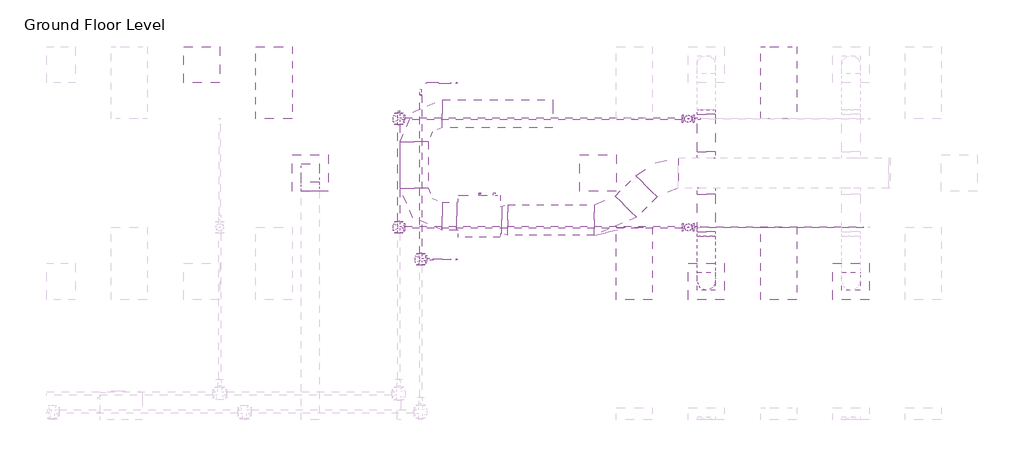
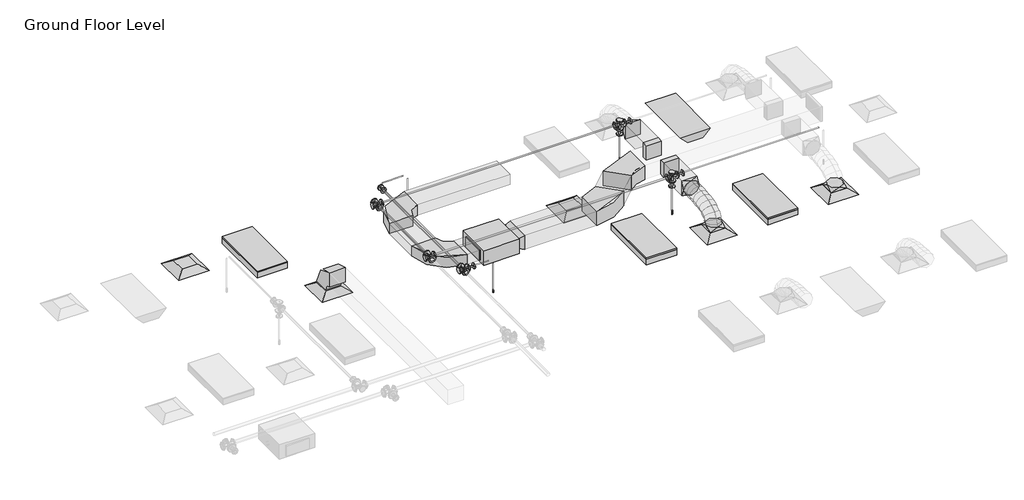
# One storey, part 66 of 68: 12 duct fittings, 12 pipe segments, 11 pipe fittings, 9 duct segments, 5 air terminals, 4 fire suppression terminals, 4 light fixtures, 1 proxy.
"""IFC4 building model written with IfcOpenShell, lengths in millimetres."""

from ifc_helpers import new_model, si_unit, point, frame, frame_2d, origin, place, context, project, spatial, polyline, circle_curve, ellipse_curve, trimmed, segment, composite_curve, outline, extrude, transform, mapped, element, save
from ifc_brep_helpers import plane_surface, cylinder_surface, advanced_brep
from components import m_return_diffuser_600_x_600_face_300_x_300_connection_ff221211, fcu_daikin_iu_bad131e0, m_rectangular_elbow_radius_1_w_618da153, m_rectangular_elbow_radius_1_w_54c96895, m_rectangular_elbow_radius_1_5_w_acc56c25, m_rectangular_takeoff_standard_cb0ccb98, m_rectangular_takeoff_standard_2be5eba1, m_rectangular_transition_angle_45_degree_2b595dfe, m_rectangular_to_round_transition_angle_45_degree_641efff0, m_sprinkler_dry_pendent_hosted_15_mm_dry_pendent_9bda8e11, m_sprinkler_pendent_15_mm_pendent_06fcbd8e, m_emergency_recessed_lighting_fixture_600x1200_277_5b10b25d, m_troffer_light_parabolic_rectangular1_0600x1200mm_4_lamp_86473d4a, m_reducer_flanged_cs_class_150_standard_ccf252ad, m_reducer_flanged_cs_class_150_standard_d42b2106, m_tee_round_base_flanged_cs_class_150_standard_7e5987a1

model = new_model("IFC4")

# Units and contexts
model_context = context("Model", 3, world=origin())
ifc_project = project(units=[si_unit("LENGTHUNIT", "METRE", prefix="MILLI")], contexts=[model_context])

# Site, building, storey
site = spatial("IfcSite", under=ifc_project)
building = spatial("IfcBuilding", under=site)
storey = spatial("IfcBuildingStorey", under=building, Name="Ground Floor Level", Elevation=900.0)

# Air terminals
placement = place(None, origin())
m_return_diffuser_600_x_600_face_300_x_300_connection_shape = m_return_diffuser_600_x_600_face_300_x_300_connection_ff221211(model_context)
element("IfcAirTerminal", 1, ObjectType="M_Return Diffuser : 600 x 600 Face 300 x 300 Connection", at=placement, inside=storey, context=model_context, shape_type="MappedRepresentation", body=[
    mapped(m_return_diffuser_600_x_600_face_300_x_300_connection_shape, transform((4162.7672395, 18735.2153534, 3650.0), x_axis=(1.0, 0.0, 0.0), y_axis=(0.0, 1.0, 0.0), z_axis=(0.0, 0.0, 1.0))),
])
element("IfcAirTerminal", 2, ObjectType="M_Return Diffuser : 600 x 600 Face 300 x 300 Connection", at=placement, inside=storey, context=model_context, shape_type="MappedRepresentation", body=[
    mapped(m_return_diffuser_600_x_600_face_300_x_300_connection_shape, transform((8942.7672395, 18735.2153534, 3650.0), x_axis=(1.0, 0.0, 0.0), y_axis=(0.0, 1.0, 0.0), z_axis=(0.0, 0.0, 1.0))),
])
element("IfcAirTerminal", 3, ObjectType="M_Supply Diffuser : 600 x 600 Face 300 x 300 Connection", at=placement, inside=storey, context=model_context, shape_type="MappedRepresentation", body=[
    mapped(m_return_diffuser_600_x_600_face_300_x_300_connection_shape, transform((2362.7672395, 20535.2153534, 3650.0), x_axis=(1.0, 0.0, 0.0), y_axis=(0.0, 1.0, 0.0), z_axis=(0.0, 0.0, 1.0))),
])
element("IfcAirTerminal", 4, ObjectType="M_Supply Diffuser : 600 x 600 Face 300 x 300 Connection", at=placement, inside=storey, context=model_context, shape_type="MappedRepresentation", body=[
    mapped(m_return_diffuser_600_x_600_face_300_x_300_connection_shape, transform((10742.7672395, 16935.2153534, 3650.0), x_axis=(1.0, 0.0, 0.0), y_axis=(0.0, 1.0, 0.0), z_axis=(0.0, 0.0, 1.0))),
])
element("IfcAirTerminal", 5, ObjectType="M_Supply Diffuser : 600 x 600 Face 300 x 300 Connection", at=placement, inside=storey, context=model_context, shape_type="MappedRepresentation", body=[
    mapped(m_return_diffuser_600_x_600_face_300_x_300_connection_shape, transform((13142.7672395, 16935.2153534, 3650.0), x_axis=(1.0, 0.0, 0.0), y_axis=(0.0, 1.0, 0.0), z_axis=(0.0, 0.0, 1.0))),
])

# Proxy
fcu_daikin_iu_shape = fcu_daikin_iu_bad131e0(model_context)
element("IfcBuildingElementProxy", 6, Name="FCU-DAIKIN IU : 4.5kW, 230V/50Hz/1Ph", ObjectType="FCU-DAIKIN IU : 4.5kW, 230V/50Hz/1Ph", at=placement, inside=storey, context=model_context, shape_type="MappedRepresentation", body=[
    mapped(fcu_daikin_iu_shape, transform((6968.8139492, 18019.6779527, 3934.0932729), x_axis=(0.0, 1.0, 0.0), y_axis=(-1.0, 0.0, 0.0), z_axis=(0.0, 0.0, 1.0))),
])

# Duct fittings
m_rectangular_elbow_radius_1_w_shape = m_rectangular_elbow_radius_1_w_618da153(model_context)
element("IfcDuctFitting", 7, ObjectType="M_Rectangular Elbow - Radius : 1 W", at=placement, inside=storey, context=model_context, shape_type="MappedRepresentation", body=[
    mapped(m_rectangular_elbow_radius_1_w_shape, transform((4162.7672395, 18735.2153534, 4075.2872564), x_axis=(0.0, 0.0, 1.0), y_axis=(0.0, -1.0, 0.0), z_axis=(1.0, 0.0, 0.0))),
])
m_rectangular_elbow_radius_1_w_2_shape = m_rectangular_elbow_radius_1_w_54c96895(model_context)
element("IfcDuctFitting", 8, ObjectType="M_Rectangular Elbow - Radius : 1 W", at=placement, inside=storey, context=model_context, shape_type="MappedRepresentation", body=[
    mapped(m_rectangular_elbow_radius_1_w_2_shape, transform((5893.4139492, 18019.6779527, 4075.2932729), x_axis=(0.0, -1.0, 0.0), y_axis=(1.0, 0.0, 0.0), z_axis=(0.0, 0.0, 1.0))),
])
element("IfcDuctFitting", 9, ObjectType="M_Rectangular Elbow - Radius : 1 W", at=placement, inside=storey, context=model_context, shape_type="MappedRepresentation", body=[
    mapped(m_rectangular_elbow_radius_1_w_2_shape, transform((5893.4139492, 19719.6783949, 4075.2932729), x_axis=(-1.0, 0.0, 0.0), y_axis=(0.0, -1.0, 0.0), z_axis=(0.0, 0.0, 1.0))),
])
m_rectangular_elbow_radius_1_5_w_shape = m_rectangular_elbow_radius_1_5_w_acc56c25(model_context)
element("IfcDuctFitting", 10, ObjectType="M_Rectangular Elbow - Radius : 1.5 W", at=placement, inside=storey, context=model_context, shape_type="MappedRepresentation", body=[
    mapped(m_rectangular_elbow_radius_1_5_w_shape, transform((9187.6927358, 17956.1779527, 4100.0047224), x_axis=(0.9999999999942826, 0.0, -3.3815582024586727e-06), y_axis=(-9.063610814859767e-12, 0.9999999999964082, -2.680306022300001e-06), z_axis=(3.3815582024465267e-06, 2.6803060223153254e-06, 0.9999999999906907))),
])
element("IfcDuctFitting", 11, ObjectType="M_Rectangular Elbow - Radius : 1.5 W", at=placement, inside=storey, context=model_context, shape_type="MappedRepresentation", body=[
    mapped(m_rectangular_elbow_radius_1_5_w_shape, transform((9966.7301365, 18735.2153534, 4100.0), x_axis=(-1.0, 0.0, 0.0), y_axis=(0.0, -0.9999999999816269, 6.061864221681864e-06), z_axis=(0.0, 6.061864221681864e-06, 0.9999999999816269))),
])
m_rectangular_takeoff_standard_shape = m_rectangular_takeoff_standard_cb0ccb98(model_context)
element("IfcDuctFitting", 12, ObjectType="M_Rectangular Takeoff : Standard", at=placement, inside=storey, context=model_context, shape_type="MappedRepresentation", body=[
    mapped(m_rectangular_takeoff_standard_shape, transform((10742.7672395, 18985.2153534, 4100.0), x_axis=(0.0, 1.0, 0.0), y_axis=(1.0, 0.0, 0.0), z_axis=(0.0, 0.0, -1.0))),
])
m_rectangular_takeoff_standard_2_shape = m_rectangular_takeoff_standard_2be5eba1(model_context)
element("IfcDuctFitting", 13, ObjectType="M_Rectangular Takeoff : Standard", at=placement, inside=storey, context=model_context, shape_type="MappedRepresentation", body=[
    mapped(m_rectangular_takeoff_standard_2_shape, transform((10742.7672395, 18485.2153534, 4100.0), x_axis=(0.0, -1.0, 0.0), y_axis=(-1.0, 0.0, 0.0), z_axis=(0.0, 0.0, -1.0))),
])
m_rectangular_transition_angle_45_degree_shape = m_rectangular_transition_angle_45_degree_2b595dfe(model_context)
element("IfcDuctFitting", 14, ObjectType="M_Rectangular Transition - Angle : 45 Degree", at=placement, inside=storey, context=model_context, shape_type="MappedRepresentation", body=[
    mapped(m_rectangular_transition_angle_45_degree_shape, transform((7344.2139492, 17956.1779527, 4100.0057729), x_axis=(1.0, 0.0, 0.0), y_axis=(0.0, 1.0, 0.0), z_axis=(0.0, 0.0, 1.0))),
])
m_rectangular_to_round_transition_angle_45_degree_shape = m_rectangular_to_round_transition_angle_45_degree_641efff0(model_context)
element("IfcDuctFitting", 15, ObjectType="M_Rectangular to Round Transition - Angle : 45 Degree", at=placement, inside=storey, context=model_context, shape_type="MappedRepresentation", body=[
    mapped(m_rectangular_to_round_transition_angle_45_degree_shape, transform((10742.7672395, 16935.2153534, 3751.6), x_axis=(0.0, 0.0, 1.0), y_axis=(-1.0, 0.0, 0.0), z_axis=(0.0, -1.0, 0.0))),
])
element("IfcDuctFitting", 16, ObjectType="M_Rectangular to Round Transition - Angle : 45 Degree", at=placement, inside=storey, context=model_context, shape_type="MappedRepresentation", body=[
    mapped(m_rectangular_to_round_transition_angle_45_degree_shape, transform((10742.7672395, 17762.5512847, 4100.0), x_axis=(0.0, -1.0, 0.0), y_axis=(1.0, 0.0, 0.0), z_axis=(0.0, 0.0, 1.0))),
])
element("IfcDuctFitting", 17, ObjectType="M_Rectangular to Round Transition - Angle : 45 Degree", at=placement, inside=storey, context=model_context, shape_type="MappedRepresentation", body=[
    mapped(m_rectangular_to_round_transition_angle_45_degree_shape, transform((10742.7672395, 19707.8794221, 4100.0), x_axis=(0.0, 1.0, 0.0), y_axis=(-1.0, 0.0, 0.0), z_axis=(0.0, 0.0, 1.0))),
])
element("IfcDuctFitting", 18, ObjectType="M_Rectangular to Round Transition - Angle : 45 Degree", at=placement, inside=storey, context=model_context, shape_type="MappedRepresentation", body=[
    mapped(m_rectangular_to_round_transition_angle_45_degree_shape, transform((13142.7672395, 16935.2153534, 3751.6), x_axis=(0.0, 0.0, 1.0), y_axis=(-1.0, 0.0, 0.0), z_axis=(0.0, -1.0, 0.0))),
])

# Duct segments
element("IfcDuctSegment", 19, ObjectType="Flex - Round", at=placement, inside=storey, context=model_context, shape_type="AdvancedBrep", body=[
    advanced_brep(
    [(10892.7672395, 16935.2153534, 3826.6), (10742.7672395, 16785.2153534, 3826.6), (10592.7672395, 16935.2153534, 3826.6), (10742.7672395, 17085.2153534, 3826.6), (10892.7672395, 16935.2153534, 3857.9377114), (10742.7672395, 16785.2153534, 3883.5809337), (10592.7672395, 16935.2153534, 3857.9377114), (10742.7672395, 17085.2153534, 3832.2944892), (10892.7672395, 16952.2312859, 3906.2505728), (10742.7672395, 16818.493307, 3978.0660967), (10592.7672395, 16952.2312859, 3906.2505728), (10742.7672395, 17085.9692649, 3834.435049), (10892.7672395, 16999.4151663, 3968.7113131), (10742.7672395, 16895.209267, 4079.6206026), (10592.7672395, 16999.4151663, 3968.7113131), (10742.7672395, 17103.6210655, 3857.8020236), (10892.7672395, 17070.9711184, 4016.0700639), (10742.7672395, 17002.0370628, 4150.3237489), (10592.7672395, 17070.9711184, 4016.0700639), (10742.7672395, 17139.9051741, 3881.8163788), (10892.7672395, 17161.1032664, 4050.4146682), (10742.7672395, 17117.5425033, 4194.3367758), (10592.7672395, 17161.1032664, 4050.4146682), (10742.7672395, 17204.6640296, 3906.4925606), (10892.7672395, 17264.0157343, 4073.8329691), (10742.7672395, 17237.4548103, 4221.6234841), (10592.7672395, 17264.0157343, 4073.8329691), (10742.7672395, 17290.5766583, 3926.0424542), (10892.7672395, 17373.912646, 4088.4128097), (10742.7672395, 17358.7617437, 4237.7170733), (10592.7672395, 17373.912646, 4088.4128097), (10742.7672395, 17389.0635483, 3939.1085462), (10892.7672395, 17484.9981256, 4096.242033), (10742.7672395, 17477.4927975, 4246.085151), (10592.7672395, 17484.9981256, 4096.242033), (10742.7672395, 17492.5034538, 3946.398915), (10892.7672395, 17591.4762972, 4099.4084821), (10742.7672395, 17588.7848041, 4249.394754), (10592.7672395, 17591.4762972, 4099.4084821), (10742.7672395, 17594.1677903, 3949.4222102), (10892.7672395, 17687.5512847, 4100.0), (10742.7672395, 17688.4747925, 3950.0028429), (10592.7672395, 17687.5512847, 4100.0), (10742.7672395, 17686.6277768, 4249.9971571)],
    [
        (0, 1, circle_curve(frame((10742.7672395, 16935.2153534, 3826.6), z_axis=(0.0, 0.0, -1.0), x_axis=(1.0, 0.0, 0.0)), 150.0)),
        (1, 2, circle_curve(frame((10742.7672395, 16935.2153534, 3826.6), z_axis=(0.0, 0.0, -1.0), x_axis=(1.0, 0.0, 0.0)), 150.0)),
        (2, 3, circle_curve(frame((10742.7672395, 16935.2153534, 3826.6), z_axis=(0.0, 0.0, -1.0), x_axis=(1.0, 0.0, 0.0)), 150.0)),
        (3, 0, circle_curve(frame((10742.7672395, 16935.2153534, 3826.6), z_axis=(0.0, 0.0, -1.0), x_axis=(1.0, 0.0, 0.0)), 150.0)),
        (0, 4),
        (4, 5, ellipse_curve(frame((10742.7672395, 16935.2153534, 3857.9377114), z_axis=(0.0, -0.16851014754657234, -0.9856999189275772), x_axis=(0.0, 0.9856999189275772, -0.1685101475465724)), 152.176131, 150.0)),
        (5, 1),
        (5, 6, ellipse_curve(frame((10742.7672395, 16935.2153534, 3857.9377114), z_axis=(0.0, -0.16851014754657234, -0.9856999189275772), x_axis=(0.0, 0.9856999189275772, -0.1685101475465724)), 152.176131, 150.0)),
        (6, 2),
        (6, 7, ellipse_curve(frame((10742.7672395, 16935.2153534, 3857.9377114), z_axis=(0.0, -0.16851014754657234, -0.9856999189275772), x_axis=(0.0, 0.9856999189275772, -0.1685101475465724)), 152.176131, 150.0)),
        (7, 3),
        (7, 4, ellipse_curve(frame((10742.7672395, 16935.2153534, 3857.9377114), z_axis=(0.0, -0.16851014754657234, -0.9856999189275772), x_axis=(0.0, 0.9856999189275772, -0.1685101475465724)), 152.176131, 150.0)),
        (4, 8),
        (8, 9, ellipse_curve(frame((10742.7672395, 16952.2312859, 3906.2505728), z_axis=(0.0, -0.47309225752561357, -0.8810128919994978), x_axis=(0.0, 0.8810128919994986, -0.47309225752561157)), 151.8002519, 150.0)),
        (9, 5),
        (9, 10, ellipse_curve(frame((10742.7672395, 16952.2312859, 3906.2505728), z_axis=(0.0, -0.47309225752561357, -0.8810128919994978), x_axis=(0.0, 0.8810128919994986, -0.47309225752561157)), 151.8002519, 150.0)),
        (10, 6),
        (10, 11, ellipse_curve(frame((10742.7672395, 16952.2312859, 3906.2505728), z_axis=(0.0, -0.47309225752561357, -0.8810128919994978), x_axis=(0.0, 0.8810128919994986, -0.47309225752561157)), 151.8002519, 150.0)),
        (11, 7),
        (11, 8, ellipse_curve(frame((10742.7672395, 16952.2312859, 3906.2505728), z_axis=(0.0, -0.47309225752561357, -0.8810128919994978), x_axis=(0.0, 0.8810128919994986, -0.47309225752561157)), 151.8002519, 150.0)),
        (8, 12),
        (12, 13, ellipse_curve(frame((10742.7672395, 16999.4151663, 3968.7113131), z_axis=(0.0, -0.7287877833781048, -0.6847396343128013), x_axis=(0.0, 0.6847396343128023, -0.7287877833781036)), 152.1832446, 150.0)),
        (13, 9),
        (13, 14, ellipse_curve(frame((10742.7672395, 16999.4151663, 3968.7113131), z_axis=(0.0, -0.7287877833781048, -0.6847396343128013), x_axis=(0.0, 0.6847396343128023, -0.7287877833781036)), 152.1832446, 150.0)),
        (14, 10),
        (14, 15, ellipse_curve(frame((10742.7672395, 16999.4151663, 3968.7113131), z_axis=(0.0, -0.7287877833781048, -0.6847396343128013), x_axis=(0.0, 0.6847396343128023, -0.7287877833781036)), 152.1832446, 150.0)),
        (15, 11),
        (15, 12, ellipse_curve(frame((10742.7672395, 16999.4151663, 3968.7113131), z_axis=(0.0, -0.7287877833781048, -0.6847396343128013), x_axis=(0.0, 0.6847396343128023, -0.7287877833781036)), 152.1832446, 150.0)),
        (12, 16),
        (16, 17, ellipse_curve(frame((10742.7672395, 17070.9711184, 4016.0700639), z_axis=(0.0, -0.8895859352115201, -0.45676784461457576), x_axis=(0.0, 0.45676784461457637, -0.8895859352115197)), 150.91705, 150.0)),
        (17, 13),
        (17, 18, ellipse_curve(frame((10742.7672395, 17070.9711184, 4016.0700639), z_axis=(0.0, -0.8895859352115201, -0.45676784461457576), x_axis=(0.0, 0.45676784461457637, -0.8895859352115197)), 150.91705, 150.0)),
        (18, 14),
        (18, 19, ellipse_curve(frame((10742.7672395, 17070.9711184, 4016.0700639), z_axis=(0.0, -0.8895859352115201, -0.45676784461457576), x_axis=(0.0, 0.45676784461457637, -0.8895859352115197)), 150.91705, 150.0)),
        (19, 15),
        (19, 16, ellipse_curve(frame((10742.7672395, 17070.9711184, 4016.0700639), z_axis=(0.0, -0.8895859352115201, -0.45676784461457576), x_axis=(0.0, 0.45676784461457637, -0.8895859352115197)), 150.91705, 150.0)),
        (16, 20),
        (20, 21, ellipse_curve(frame((10742.7672395, 17161.1032664, 4050.4146682), z_axis=(0.0, -0.9571203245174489, -0.2896906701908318), x_axis=(0.0, 0.28969067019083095, -0.9571203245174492)), 150.369921, 150.0)),
        (21, 17),
        (21, 22, ellipse_curve(frame((10742.7672395, 17161.1032664, 4050.4146682), z_axis=(0.0, -0.9571203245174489, -0.2896906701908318), x_axis=(0.0, 0.28969067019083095, -0.9571203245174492)), 150.369921, 150.0)),
        (22, 18),
        (22, 23, ellipse_curve(frame((10742.7672395, 17161.1032664, 4050.4146682), z_axis=(0.0, -0.9571203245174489, -0.2896906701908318), x_axis=(0.0, 0.28969067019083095, -0.9571203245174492)), 150.369921, 150.0)),
        (23, 19),
        (23, 20, ellipse_curve(frame((10742.7672395, 17161.1032664, 4050.4146682), z_axis=(0.0, -0.9571203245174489, -0.2896906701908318), x_axis=(0.0, 0.28969067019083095, -0.9571203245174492)), 150.369921, 150.0)),
        (20, 24),
        (24, 25, ellipse_curve(frame((10742.7672395, 17264.0157343, 4073.8329691), z_axis=(0.0, -0.9842313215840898, -0.17688613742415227), x_axis=(0.0, 0.17688613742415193, -0.9842313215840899)), 150.1583131, 150.0)),
        (25, 21),
        (25, 26, ellipse_curve(frame((10742.7672395, 17264.0157343, 4073.8329691), z_axis=(0.0, -0.9842313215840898, -0.17688613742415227), x_axis=(0.0, 0.17688613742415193, -0.9842313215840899)), 150.1583131, 150.0)),
        (26, 22),
        (26, 27, ellipse_curve(frame((10742.7672395, 17264.0157343, 4073.8329691), z_axis=(0.0, -0.9842313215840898, -0.17688613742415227), x_axis=(0.0, 0.17688613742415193, -0.9842313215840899)), 150.1583131, 150.0)),
        (27, 23),
        (27, 24, ellipse_curve(frame((10742.7672395, 17264.0157343, 4073.8329691), z_axis=(0.0, -0.9842313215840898, -0.17688613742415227), x_axis=(0.0, 0.17688613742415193, -0.9842313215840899)), 150.1583131, 150.0)),
        (24, 28),
        (28, 29, ellipse_curve(frame((10742.7672395, 17373.912646, 4088.4128097), z_axis=(0.0, -0.9948906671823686, -0.1009582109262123), x_axis=(0.0, 0.10095821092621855, -0.994890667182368)), 150.0710264, 150.0)),
        (29, 25),
        (29, 30, ellipse_curve(frame((10742.7672395, 17373.912646, 4088.4128097), z_axis=(0.0, -0.9948906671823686, -0.1009582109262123), x_axis=(0.0, 0.10095821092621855, -0.994890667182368)), 150.0710264, 150.0)),
        (30, 26),
        (30, 31, ellipse_curve(frame((10742.7672395, 17373.912646, 4088.4128097), z_axis=(0.0, -0.9948906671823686, -0.1009582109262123), x_axis=(0.0, 0.10095821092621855, -0.994890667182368)), 150.0710264, 150.0)),
        (31, 27),
        (31, 28, ellipse_curve(frame((10742.7672395, 17373.912646, 4088.4128097), z_axis=(0.0, -0.9948906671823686, -0.1009582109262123), x_axis=(0.0, 0.10095821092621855, -0.994890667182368)), 150.0710264, 150.0)),
        (28, 32),
        (32, 33, ellipse_curve(frame((10742.7672395, 17484.9981256, 4096.242033), z_axis=(0.0, -0.9987479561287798, -0.05002519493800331), x_axis=(0.0, 0.05002519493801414, -0.9987479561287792)), 150.0309634, 150.0)),
        (33, 29),
        (33, 34, ellipse_curve(frame((10742.7672395, 17484.9981256, 4096.242033), z_axis=(0.0, -0.9987479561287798, -0.05002519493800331), x_axis=(0.0, 0.05002519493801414, -0.9987479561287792)), 150.0309634, 150.0)),
        (34, 30),
        (34, 35, ellipse_curve(frame((10742.7672395, 17484.9981256, 4096.242033), z_axis=(0.0, -0.9987479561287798, -0.05002519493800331), x_axis=(0.0, 0.05002519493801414, -0.9987479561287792)), 150.0309634, 150.0)),
        (35, 31),
        (35, 32, ellipse_curve(frame((10742.7672395, 17484.9981256, 4096.242033), z_axis=(0.0, -0.9987479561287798, -0.05002519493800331), x_axis=(0.0, 0.05002519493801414, -0.9987479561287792)), 150.0309634, 150.0)),
        (32, 36),
        (36, 37, ellipse_curve(frame((10742.7672395, 17591.4762972, 4099.4084821), z_axis=(0.0, -0.9998390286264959, -0.017942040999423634), x_axis=(0.0, 0.017942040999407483, -0.9998390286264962)), 150.0104193, 150.0)),
        (37, 33),
        (37, 38, ellipse_curve(frame((10742.7672395, 17591.4762972, 4099.4084821), z_axis=(0.0, -0.9998390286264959, -0.017942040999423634), x_axis=(0.0, 0.017942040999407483, -0.9998390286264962)), 150.0104193, 150.0)),
        (38, 34),
        (38, 39, ellipse_curve(frame((10742.7672395, 17591.4762972, 4099.4084821), z_axis=(0.0, -0.9998390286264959, -0.017942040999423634), x_axis=(0.0, 0.017942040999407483, -0.9998390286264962)), 150.0104193, 150.0)),
        (39, 35),
        (39, 36, ellipse_curve(frame((10742.7672395, 17591.4762972, 4099.4084821), z_axis=(0.0, -0.9998390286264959, -0.017942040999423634), x_axis=(0.0, 0.017942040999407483, -0.9998390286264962)), 150.0104193, 150.0)),
        (40, 41, circle_curve(frame((10742.7672395, 17687.5512847, 4100.0), z_axis=(0.0, 0.9999810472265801, 0.006156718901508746), x_axis=(1.0, 0.0, 0.0)), 150.0)),
        (41, 42, circle_curve(frame((10742.7672395, 17687.5512847, 4100.0), z_axis=(0.0, 0.9999810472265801, 0.006156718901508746), x_axis=(1.0, 0.0, 0.0)), 150.0)),
        (42, 43, circle_curve(frame((10742.7672395, 17687.5512847, 4100.0), z_axis=(0.0, 0.9999810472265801, 0.006156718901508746), x_axis=(1.0, 0.0, 0.0)), 150.0)),
        (43, 40, circle_curve(frame((10742.7672395, 17687.5512847, 4100.0), z_axis=(0.0, 0.9999810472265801, 0.006156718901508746), x_axis=(1.0, 0.0, 0.0)), 150.0)),
        (36, 40),
        (43, 37),
        (42, 38),
        (41, 39),
    ],
    [
        plane_surface(frame((10742.7672395, 16785.2153534, 3826.6), z_axis=(0.0, 0.0, -1.0), x_axis=(1.0, 0.0, 0.0))),
        cylinder_surface(frame((10742.7672395, 16935.2153534, 3826.6), z_axis=(0.0, 0.0, -1.0), x_axis=(1.0, 0.0, 0.0)), 150.0),
        cylinder_surface(frame((10742.7672395, 16935.2153534, 3857.9377114), z_axis=(0.0, -0.3322008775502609, -0.9432086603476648), x_axis=(1.0, 0.0, 0.0)), 150.0),
        cylinder_surface(frame((10742.7672395, 16952.2312859, 3906.2505728), z_axis=(0.0, -0.6027625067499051, -0.7979206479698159), x_axis=(1.0, 0.0, 0.0)), 150.0),
        cylinder_surface(frame((10742.7672395, 16999.4151663, 3968.7113131), z_axis=(0.0, -0.833902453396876, -0.5519118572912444), x_axis=(1.0, 0.0, 0.0)), 150.0),
        cylinder_surface(frame((10742.7672395, 17070.9711184, 4016.0700639), z_axis=(0.0, -0.9344582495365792, -0.35607271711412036), x_axis=(1.0, 0.0, 0.0)), 150.0),
        cylinder_surface(frame((10742.7672395, 17161.1032664, 4050.4146682), z_axis=(0.0, -0.9750732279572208, -0.22188330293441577), x_axis=(1.0, 0.0, 0.0)), 150.0),
        cylinder_surface(frame((10742.7672395, 17264.0157343, 4073.8329691), z_axis=(0.0, -0.9913140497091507, -0.13151598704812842), x_axis=(1.0, 0.0, 0.0)), 150.0),
        cylinder_surface(frame((10742.7672395, 17373.912646, 4088.4128097), z_axis=(0.0, -0.9975255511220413, -0.07030487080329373), x_axis=(1.0, 0.0, 0.0)), 150.0),
        cylinder_surface(frame((10742.7672395, 17484.9981256, 4096.242033), z_axis=(0.0, -0.9995581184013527, -0.02972487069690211), x_axis=(1.0, 0.0, 0.0)), 150.0),
        plane_surface(frame((10742.7672395, 17686.6277768, 4249.9971571), z_axis=(0.0, 0.9999810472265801, 0.0061567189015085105), x_axis=(1.0, 0.0, 0.0))),
        cylinder_surface(frame((10742.7672395, 17591.4762972, 4099.4084821), z_axis=(0.0, -0.9999810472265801, -0.006156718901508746), x_axis=(1.0, 0.0, 0.0)), 150.0),
    ],
    [
        (0, [[1, 2, 3, 4]]),
        (1, [[-1, 5, 6, 7]]),
        (1, [[-2, -7, 8, 9]]),
        (1, [[-3, -9, 10, 11]]),
        (1, [[-4, -11, 12, -5]]),
        (2, [[-6, 13, 14, 15]]),
        (2, [[-8, -15, 16, 17]]),
        (2, [[-10, -17, 18, 19]]),
        (2, [[-12, -19, 20, -13]]),
        (3, [[-14, 21, 22, 23]]),
        (3, [[-16, -23, 24, 25]]),
        (3, [[-18, -25, 26, 27]]),
        (3, [[-20, -27, 28, -21]]),
        (4, [[-22, 29, 30, 31]]),
        (4, [[-24, -31, 32, 33]]),
        (4, [[-26, -33, 34, 35]]),
        (4, [[-28, -35, 36, -29]]),
        (5, [[-30, 37, 38, 39]]),
        (5, [[-32, -39, 40, 41]]),
        (5, [[-34, -41, 42, 43]]),
        (5, [[-36, -43, 44, -37]]),
        (6, [[-38, 45, 46, 47]]),
        (6, [[-40, -47, 48, 49]]),
        (6, [[-42, -49, 50, 51]]),
        (6, [[-44, -51, 52, -45]]),
        (7, [[-46, 53, 54, 55]]),
        (7, [[-48, -55, 56, 57]]),
        (7, [[-50, -57, 58, 59]]),
        (7, [[-52, -59, 60, -53]]),
        (8, [[-54, 61, 62, 63]]),
        (8, [[-56, -63, 64, 65]]),
        (8, [[-58, -65, 66, 67]]),
        (8, [[-60, -67, 68, -61]]),
        (9, [[-62, 69, 70, 71]]),
        (9, [[-64, -71, 72, 73]]),
        (9, [[-66, -73, 74, 75]]),
        (9, [[-68, -75, 76, -69]]),
        (10, [[77, 78, 79, 80]]),
        (11, [[-70, 81, -80, 82]]),
        (11, [[-72, -82, -79, 83]]),
        (11, [[-74, -83, -78, 84]]),
        (11, [[-76, -84, -77, -81]]),
    ],
),
])
element("IfcDuctSegment", 20, ObjectType="Radius Elbows / Taps", at=placement, inside=storey, context=model_context, shape_type="SweptSolid", body=[
    extrude(outline(polyline([(7447.693178, 17706.1779527), (7447.693178, 18206.1779527), (8877.032564, 18206.1779527), (8877.032564, 17706.1779527), (7447.693178, 17706.1779527)])), frame((0.0, 0.0, 3950.0057729), z_axis=(0.0, 0.0, 1.0), x_axis=(1.0, 0.0, 0.0)), (0.0, 0.0, 1.0), 300.0),
])
element("IfcDuctSegment", 21, ObjectType="Radius Elbows / Taps", at=placement, inside=storey, context=model_context, shape_type="SweptSolid", body=[
    extrude(outline(polyline([(9584.1393452, 17999.0711715), (9230.5859546, 18352.6245621), (9570.2835271, 18692.3221346), (9923.8369177, 18338.768744), (9584.1393452, 17999.0711715)])), frame((0.0, 0.0, 3950.0033908), z_axis=(0.0, 0.0, 1.0), x_axis=(1.0, 0.0, 0.0)), (0.0, 0.0, 1.0), 300.0),
])
element("IfcDuctSegment", 22, ObjectType="Radius Elbows / Taps", at=placement, inside=storey, context=model_context, shape_type="SweptSolid", body=[
    extrude(outline(polyline([(4312.7672395, 18585.2153534), (4012.7672395, 18585.2153534), (4012.7672395, 18885.2153534), (4312.7672395, 18885.2153534), (4312.7672395, 18585.2153534)])), frame((0.0, 0.0, 3751.6), z_axis=(0.0, 0.0, 1.0), x_axis=(1.0, 0.0, 0.0)), (0.0, 0.0, 1.0), 23.6872564),
])
element("IfcDuctSegment", 23, ObjectType="Radius Elbows / Taps", at=placement, inside=storey, context=model_context, shape_type="SweptSolid", body=[
    extrude(outline(polyline([(6593.4139492, 18250.6154527), (6593.4139492, 17788.7404527), (6355.2889492, 17788.7404527), (6355.2889492, 18250.6154527), (6593.4139492, 18250.6154527)])), frame((0.0, 0.0, 3968.1432729), z_axis=(0.0, 0.0, 1.0), x_axis=(1.0, 0.0, 0.0)), (0.0, 0.0, 1.0), 214.3),
])
element("IfcDuctSegment", 24, ObjectType="Radius Elbows / Taps", at=placement, inside=storey, context=model_context, shape_type="SweptSolid", body=[
    extrude(outline(polyline([(6124.3514492, 18481.5529527), (5662.4764492, 18481.5529527), (5662.4764492, 19257.8033949), (6124.3514492, 19257.8033949), (6124.3514492, 18481.5529527)])), frame((0.0, 0.0, 3968.1432729), z_axis=(0.0, 0.0, 1.0), x_axis=(1.0, 0.0, 0.0)), (0.0, 0.0, 1.0), 214.3),
])
element("IfcDuctSegment", 25, ObjectType="Radius Elbows / Taps", at=placement, inside=storey, context=model_context, shape_type="SweptSolid", body=[
    extrude(outline(polyline([(6355.2889492, 19488.7408949), (6355.2889492, 19950.6158949), (8193.4139492, 19950.6158949), (8193.4139492, 19488.7408949), (6355.2889492, 19488.7408949)])), frame((0.0, 0.0, 3968.1432729), z_axis=(0.0, 0.0, 1.0), x_axis=(1.0, 0.0, 0.0)), (0.0, 0.0, 1.0), 214.3),
])
element("IfcDuctSegment", 26, ObjectType="Radius Elbows / Taps", at=placement, inside=storey, context=model_context, shape_type="SweptSolid", body=[
    extrude(outline(polyline([(10892.7672395, 19086.8153534), (10592.7672395, 19086.8153534), (10592.7672395, 19707.8794221), (10892.7672395, 19707.8794221), (10892.7672395, 19086.8153534)])), frame((0.0, 0.0, 3950.0), z_axis=(0.0, 0.0, 1.0), x_axis=(1.0, 0.0, 0.0)), (0.0, 0.0, 1.0), 300.0),
])
element("IfcDuctSegment", 27, ObjectType="Radius Elbows / Taps", at=placement, inside=storey, context=model_context, shape_type="SweptSolid", body=[
    extrude(outline(polyline([(10592.7672395, 18383.6153534), (10892.7672395, 18383.6153534), (10892.7672395, 17762.5512847), (10592.7672395, 17762.5512847), (10592.7672395, 18383.6153534)])), frame((0.0, 0.0, 3950.0), z_axis=(0.0, 0.0, 1.0), x_axis=(1.0, 0.0, 0.0)), (0.0, 0.0, 1.0), 300.0),
])

# Fire suppression terminals
m_sprinkler_dry_pendent_hosted_15_mm_dry_pendent_shape = m_sprinkler_dry_pendent_hosted_15_mm_dry_pendent_9bda8e11(model_context)
element("IfcFireSuppressionTerminal", 28, ObjectType="M_Sprinkler - Dry - Pendent - Hosted : 15 mm Dry Pendent", at=placement, inside=storey, context=model_context, shape_type="MappedRepresentation", body=[
    mapped(m_sprinkler_dry_pendent_hosted_15_mm_dry_pendent_shape, transform((10442.7672395, 19635.2153534, 3650.0), x_axis=(1.0, 0.0, 0.0), y_axis=(0.0, -1.0, 0.0), z_axis=(0.0, 0.0, -1.0))),
])
element("IfcFireSuppressionTerminal", 29, ObjectType="M_Sprinkler - Dry - Pendent - Hosted : 15 mm Dry Pendent", at=placement, inside=storey, context=model_context, shape_type="MappedRepresentation", body=[
    mapped(m_sprinkler_dry_pendent_hosted_15_mm_dry_pendent_shape, transform((10442.7672395, 17835.2153534, 3650.0), x_axis=(1.0, 0.0, 0.0), y_axis=(0.0, -1.0, 0.0), z_axis=(0.0, 0.0, -1.0))),
])
m_sprinkler_pendent_15_mm_pendent_shape = m_sprinkler_pendent_15_mm_pendent_06fcbd8e(model_context)
element("IfcFireSuppressionTerminal", 30, ObjectType="M_Sprinkler - Pendent : 15 mm Pendent", at=placement, inside=storey, context=model_context, shape_type="MappedRepresentation", body=[
    mapped(m_sprinkler_pendent_15_mm_pendent_shape, transform((6592.5481019, 17301.8585069, 3650.0), x_axis=(1.0, 0.0, 0.0), y_axis=(0.0, 1.0, 0.0), z_axis=(0.0, 0.0, 1.0))),
])
element("IfcFireSuppressionTerminal", 31, ObjectType="M_Sprinkler - Pendent : 15 mm Pendent", at=placement, inside=storey, context=model_context, shape_type="MappedRepresentation", body=[
    mapped(m_sprinkler_pendent_15_mm_pendent_shape, transform((6592.5481019, 20231.639515, 3650.0), x_axis=(1.0, 0.0, 0.0), y_axis=(0.0, 1.0, 0.0), z_axis=(0.0, 0.0, 1.0))),
])

# Light fixtures
m_emergency_recessed_lighting_fixture_600x1200_277_shape = m_emergency_recessed_lighting_fixture_600x1200_277_5b10b25d(model_context)
element("IfcLightFixture", 32, ObjectType="M_Emergency Recessed Lighting Fixture : 600x1200 - 277", at=placement, inside=storey, context=model_context, shape_type="MappedRepresentation", body=[
    mapped(m_emergency_recessed_lighting_fixture_600x1200_277_shape, transform((11642.7672395, 19635.2153534, 3650.0), x_axis=(0.0, 1.0, 0.0), y_axis=(-1.0, 0.0, 0.0), z_axis=(0.0, 0.0, 1.0))),
])
m_troffer_light_parabolic_rectangular1_0600x1200mm_4_lamp_shape = m_troffer_light_parabolic_rectangular1_0600x1200mm_4_lamp_86473d4a(model_context)
element("IfcLightFixture", 33, ObjectType="M_Troffer Light - Parabolic Rectangular1 : 0600x1200mm(4 Lamp) - 277V 2", at=placement, inside=storey, context=model_context, shape_type="MappedRepresentation", body=[
    mapped(m_troffer_light_parabolic_rectangular1_0600x1200mm_4_lamp_shape, transform((3503.3013074, 20253.918855, 3650.0), x_axis=(0.0, 1.0, 0.0), y_axis=(-1.0, 0.0, 0.0), z_axis=(0.0, 0.0, 1.0))),
])
element("IfcLightFixture", 34, ObjectType="M_Troffer Light - Parabolic Rectangular1 : 0600x1200mm(4 Lamp) - 277V 2", at=placement, inside=storey, context=model_context, shape_type="MappedRepresentation", body=[
    mapped(m_troffer_light_parabolic_rectangular1_0600x1200mm_4_lamp_shape, transform((9483.3013074, 17253.918855, 3650.0), x_axis=(0.0, 1.0, 0.0), y_axis=(-1.0, 0.0, 0.0), z_axis=(0.0, 0.0, 1.0))),
])
element("IfcLightFixture", 35, ObjectType="M_Troffer Light - Parabolic Rectangular1 : 0600x1200mm(4 Lamp) - 277V 2", at=placement, inside=storey, context=model_context, shape_type="MappedRepresentation", body=[
    mapped(m_troffer_light_parabolic_rectangular1_0600x1200mm_4_lamp_shape, transform((11883.3013074, 17253.918855, 3650.0), x_axis=(0.0, 1.0, 0.0), y_axis=(-1.0, 0.0, 0.0), z_axis=(0.0, 0.0, 1.0))),
])

# Pipe fittings
m_reducer_flanged_cs_class_150_standard_shape = m_reducer_flanged_cs_class_150_standard_ccf252ad(model_context)
element("IfcPipeFitting", 36, ObjectType="M_Reducer - Flanged - CS - Class 150 : Standard", at=placement, inside=storey, context=model_context, shape_type="MappedRepresentation", body=[
    mapped(m_reducer_flanged_cs_class_150_standard_shape, transform((5997.057812, 20024.6309212, 4291.0943441), x_axis=(0.0, 1.0, 0.0), y_axis=(-1.0, 0.0, 0.0), z_axis=(0.0, 0.0, 1.0))),
])
element("IfcPipeFitting", 37, ObjectType="M_Reducer - Flanged - CS - Class 150 : Standard", at=placement, inside=storey, context=model_context, shape_type="MappedRepresentation", body=[
    mapped(m_reducer_flanged_cs_class_150_standard_shape, transform((10543.4758332, 17835.2153534, 4360.0), x_axis=(1.0, 0.0, 0.0), y_axis=(0.0, 0.0, 1.0), z_axis=(0.0, -1.0, 0.0))),
])
element("IfcPipeFitting", 38, ObjectType="M_Reducer - Flanged - CS - Class 150 : Standard", at=placement, inside=storey, context=model_context, shape_type="MappedRepresentation", body=[
    mapped(m_reducer_flanged_cs_class_150_standard_shape, transform((10442.7672395, 17835.2153534, 4259.2914062), x_axis=(0.0, 0.0, -1.0), y_axis=(-1.0, 0.0, 0.0), z_axis=(0.0, 1.0, 0.0))),
])
element("IfcPipeFitting", 39, ObjectType="M_Reducer - Flanged - CS - Class 150 : Standard", at=placement, inside=storey, context=model_context, shape_type="MappedRepresentation", body=[
    mapped(m_reducer_flanged_cs_class_150_standard_shape, transform((10543.4758332, 19635.2153534, 4360.0), x_axis=(1.0, 0.0, 0.0), y_axis=(0.0, 0.0, 1.0), z_axis=(0.0, -1.0, 0.0))),
])
element("IfcPipeFitting", 40, ObjectType="M_Reducer - Flanged - CS - Class 150 : Standard", at=placement, inside=storey, context=model_context, shape_type="MappedRepresentation", body=[
    mapped(m_reducer_flanged_cs_class_150_standard_shape, transform((10442.7672395, 19635.2153534, 4259.2914062), x_axis=(0.0, 0.0, -1.0), y_axis=(-1.0, 0.0, 0.0), z_axis=(0.0, 1.0, 0.0))),
])
m_reducer_flanged_cs_class_150_standard_2_shape = m_reducer_flanged_cs_class_150_standard_d42b2106(model_context)
element("IfcPipeFitting", 41, ObjectType="M_Reducer - Flanged - CS - Class 150 : Standard", at=placement, inside=storey, context=model_context, shape_type="MappedRepresentation", body=[
    mapped(m_reducer_flanged_cs_class_150_standard_2_shape, transform((6097.7664057, 17301.8585069, 4291.2754753), x_axis=(1.0, 0.0, 0.0), y_axis=(0.0, 0.0, -1.0), z_axis=(0.0, 1.0, 0.0))),
])
m_tee_round_base_flanged_cs_class_150_standard_shape = m_tee_round_base_flanged_cs_class_150_standard_7e5987a1(model_context)
element("IfcPipeFitting", 42, ObjectType="M_Tee Round Base - Flanged - CS - Class 150 : Standard", at=placement, inside=storey, context=model_context, shape_type="MappedRepresentation", body=[
    mapped(m_tee_round_base_flanged_cs_class_150_standard_shape, transform((5997.057812, 17301.8585069, 4291.0943441), x_axis=(0.0, -1.0, 0.0), y_axis=(-1.0, 0.0, 0.0), z_axis=(0.0, 0.0, -1.0))),
])
element("IfcPipeFitting", 43, ObjectType="M_Tee Round Base - Flanged - CS - Class 150 : Standard", at=placement, inside=storey, context=model_context, shape_type="MappedRepresentation", body=[
    mapped(m_tee_round_base_flanged_cs_class_150_standard_shape, transform((5635.869498, 19635.2153534, 4360.0), x_axis=(0.0, -1.0, 0.0), y_axis=(-1.0, 0.0, 0.0), z_axis=(0.0, 0.0, -1.0))),
])
element("IfcPipeFitting", 44, ObjectType="M_Tee Round Base - Flanged - CS - Class 150 : Standard", at=placement, inside=storey, context=model_context, shape_type="MappedRepresentation", body=[
    mapped(m_tee_round_base_flanged_cs_class_150_standard_shape, transform((5635.869498, 17835.2153534, 4360.0), x_axis=(0.0, -1.0, 0.0), y_axis=(-1.0, 0.0, 0.0), z_axis=(0.0, 0.0, -1.0))),
])
element("IfcPipeFitting", 45, ObjectType="M_Tee Round Base - Flanged - CS - Class 150 : Standard", at=placement, inside=storey, context=model_context, shape_type="MappedRepresentation", body=[
    mapped(m_tee_round_base_flanged_cs_class_150_standard_shape, transform((10442.7672395, 17835.2153534, 4360.0), x_axis=(1.0, 0.0, 0.0), y_axis=(0.0, 0.0, 1.0), z_axis=(0.0, -1.0, 0.0))),
])
element("IfcPipeFitting", 46, ObjectType="M_Tee Round Base - Flanged - CS - Class 150 : Standard", at=placement, inside=storey, context=model_context, shape_type="MappedRepresentation", body=[
    mapped(m_tee_round_base_flanged_cs_class_150_standard_shape, transform((10442.7672395, 19635.2153534, 4360.0), x_axis=(1.0, 0.0, 0.0), y_axis=(0.0, 0.0, 1.0), z_axis=(0.0, -1.0, 0.0))),
])

# Pipe segments
element("IfcPipeSegment", 47, ObjectType="Steel flanged", at=placement, inside=storey, context=model_context, shape_type="SweptSolid", body=[
    extrude(outline(composite_curve([segment(trimmed(circle_curve(frame_2d((6592.5481019, 17301.8585069)), 10.668), [point((6581.8801019, 17301.8585069))], [point((6592.5481019, 17312.5265069))], False, "CARTESIAN"), True, "CONTINUOUS"), segment(trimmed(circle_curve(frame_2d((6592.5481019, 17301.8585069)), 10.668), [point((6592.5481019, 17312.5265069))], [point((6603.2161019, 17301.8585069))], False, "CARTESIAN"), True, "CONTINUOUS"), segment(trimmed(circle_curve(frame_2d((6592.5481019, 17301.8585069)), 10.668), [point((6603.2161019, 17301.8585069))], [point((6592.5481019, 17291.1905069))], False, "CARTESIAN"), True, "CONTINUOUS"), segment(trimmed(circle_curve(frame_2d((6592.5481019, 17301.8585069)), 10.668), [point((6592.5481019, 17291.1905069))], [point((6581.8801019, 17301.8585069))], False, "CARTESIAN"), True, "CONTINUOUS")], self_intersect=False)), frame((0.0, 0.0, 3650.0), z_axis=(0.0, 0.0, 1.0), x_axis=(1.0, 0.0, 0.0)), (0.0, 0.0, 1.0), 548.2668816),
])
element("IfcPipeSegment", 48, ObjectType="Steel flanged", at=placement, inside=storey, context=model_context, shape_type="SweptSolid", body=[
    extrude(outline(composite_curve([segment(trimmed(circle_curve(frame_2d((17301.8585069, 4291.2754753)), 10.668), [point((17312.5265069, 4291.2754753))], [point((17301.8585069, 4280.6074753))], False, "CARTESIAN"), True, "CONTINUOUS"), segment(trimmed(circle_curve(frame_2d((17301.8585069, 4291.2754753)), 10.668), [point((17301.8585069, 4280.6074753))], [point((17291.1905069, 4291.2754753))], False, "CARTESIAN"), True, "CONTINUOUS"), segment(trimmed(circle_curve(frame_2d((17301.8585069, 4291.2754753)), 10.668), [point((17291.1905069, 4291.2754753))], [point((17301.8585069, 4301.9434753))], False, "CARTESIAN"), True, "CONTINUOUS"), segment(trimmed(circle_curve(frame_2d((17301.8585069, 4291.2754753)), 10.668), [point((17301.8585069, 4301.9434753))], [point((17312.5265069, 4291.2754753))], False, "CARTESIAN"), True, "CONTINUOUS")], self_intersect=False)), frame((6211.7664057, 0.0, 0.0), z_axis=(1.0, 0.0, 0.0), x_axis=(0.0, 1.0, 0.0)), (0.0, 0.0, 1.0), 287.7731025),
])
element("IfcPipeSegment", 49, ObjectType="Steel flanged", at=placement, inside=storey, context=model_context, shape_type="SweptSolid", body=[
    extrude(outline(composite_curve([segment(trimmed(circle_curve(frame_2d((4291.0943441, 5997.057812)), 16.7005), [point((4291.0943441, 6013.758312))], [point((4307.7948441, 5997.057812))], False, "CARTESIAN"), True, "CONTINUOUS"), segment(trimmed(circle_curve(frame_2d((4291.0943441, 5997.057812)), 16.7005), [point((4307.7948441, 5997.057812))], [point((4291.0943441, 5980.357312))], False, "CARTESIAN"), True, "CONTINUOUS"), segment(trimmed(circle_curve(frame_2d((4291.0943441, 5997.057812)), 16.7005), [point((4291.0943441, 5980.357312))], [point((4274.3938441, 5997.057812))], False, "CARTESIAN"), True, "CONTINUOUS"), segment(trimmed(circle_curve(frame_2d((4291.0943441, 5997.057812)), 16.7005), [point((4274.3938441, 5997.057812))], [point((4291.0943441, 6013.758312))], False, "CARTESIAN"), True, "CONTINUOUS")], self_intersect=False)), frame((0.0, 17402.5671007, 0.0), z_axis=(0.0, 1.0, 0.0), x_axis=(0.0, 0.0, 1.0)), (0.0, 0.0, 1.0), 2622.0638206),
])
element("IfcPipeSegment", 50, ObjectType="Steel flanged", at=placement, inside=storey, context=model_context, shape_type="SweptSolid", body=[
    extrude(outline(composite_curve([segment(trimmed(circle_curve(frame_2d((6592.5481019, 20231.639515)), 10.668), [point((6581.8801019, 20231.639515))], [point((6592.5481019, 20242.307515))], False, "CARTESIAN"), True, "CONTINUOUS"), segment(trimmed(circle_curve(frame_2d((6592.5481019, 20231.639515)), 10.668), [point((6592.5481019, 20242.307515))], [point((6603.2161019, 20231.639515))], False, "CARTESIAN"), True, "CONTINUOUS"), segment(trimmed(circle_curve(frame_2d((6592.5481019, 20231.639515)), 10.668), [point((6603.2161019, 20231.639515))], [point((6592.5481019, 20220.971515))], False, "CARTESIAN"), True, "CONTINUOUS"), segment(trimmed(circle_curve(frame_2d((6592.5481019, 20231.639515)), 10.668), [point((6592.5481019, 20220.971515))], [point((6581.8801019, 20231.639515))], False, "CARTESIAN"), True, "CONTINUOUS")], self_intersect=False)), frame((0.0, 0.0, 3650.0), z_axis=(0.0, 0.0, 1.0), x_axis=(1.0, 0.0, 0.0)), (0.0, 0.0, 1.0), 548.2668816),
])
element("IfcPipeSegment", 51, ObjectType="Steel flanged", at=placement, inside=storey, context=model_context, shape_type="SweptSolid", body=[
    extrude(outline(composite_curve([segment(trimmed(circle_curve(frame_2d((20231.639515, 4291.2754753)), 10.668), [point((20242.307515, 4291.2754753))], [point((20231.639515, 4280.6074753))], False, "CARTESIAN"), True, "CONTINUOUS"), segment(trimmed(circle_curve(frame_2d((20231.639515, 4291.2754753)), 10.668), [point((20231.639515, 4280.6074753))], [point((20220.971515, 4291.2754753))], False, "CARTESIAN"), True, "CONTINUOUS"), segment(trimmed(circle_curve(frame_2d((20231.639515, 4291.2754753)), 10.668), [point((20220.971515, 4291.2754753))], [point((20231.639515, 4301.9434753))], False, "CARTESIAN"), True, "CONTINUOUS"), segment(trimmed(circle_curve(frame_2d((20231.639515, 4291.2754753)), 10.668), [point((20231.639515, 4301.9434753))], [point((20242.307515, 4291.2754753))], False, "CARTESIAN"), True, "CONTINUOUS")], self_intersect=False)), frame((6090.0664057, 0.0, 0.0), z_axis=(1.0, 0.0, 0.0), x_axis=(0.0, 1.0, 0.0)), (0.0, 0.0, 1.0), 409.4731025),
])
element("IfcPipeSegment", 52, ObjectType="Steel flanged", at=placement, inside=storey, context=model_context, shape_type="SweptSolid", body=[
    extrude(outline(composite_curve([segment(trimmed(circle_curve(frame_2d((4360.0, 5635.869498)), 16.7005), [point((4360.0, 5652.569998))], [point((4376.7005, 5635.869498))], False, "CARTESIAN"), True, "CONTINUOUS"), segment(trimmed(circle_curve(frame_2d((4360.0, 5635.869498)), 16.7005), [point((4376.7005, 5635.869498))], [point((4360.0, 5619.168998))], False, "CARTESIAN"), True, "CONTINUOUS"), segment(trimmed(circle_curve(frame_2d((4360.0, 5635.869498)), 16.7005), [point((4360.0, 5619.168998))], [point((4343.2995, 5635.869498))], False, "CARTESIAN"), True, "CONTINUOUS"), segment(trimmed(circle_curve(frame_2d((4360.0, 5635.869498)), 16.7005), [point((4343.2995, 5635.869498))], [point((4360.0, 5652.569998))], False, "CARTESIAN"), True, "CONTINUOUS")], self_intersect=False)), frame((0.0, 19735.9239471, 0.0), z_axis=(0.0, 1.0, 0.0), x_axis=(0.0, 0.0, 1.0)), (0.0, 0.0, 1.0), 37.2770357),
])
element("IfcPipeSegment", 53, ObjectType="Steel flanged", at=placement, inside=storey, context=model_context, shape_type="SweptSolid", body=[
    extrude(outline(composite_curve([segment(trimmed(circle_curve(frame_2d((4360.0, 5635.869498)), 16.7005), [point((4360.0, 5652.569998))], [point((4376.7005, 5635.869498))], False, "CARTESIAN"), True, "CONTINUOUS"), segment(trimmed(circle_curve(frame_2d((4360.0, 5635.869498)), 16.7005), [point((4376.7005, 5635.869498))], [point((4360.0, 5619.168998))], False, "CARTESIAN"), True, "CONTINUOUS"), segment(trimmed(circle_curve(frame_2d((4360.0, 5635.869498)), 16.7005), [point((4360.0, 5619.168998))], [point((4343.2995, 5635.869498))], False, "CARTESIAN"), True, "CONTINUOUS"), segment(trimmed(circle_curve(frame_2d((4360.0, 5635.869498)), 16.7005), [point((4343.2995, 5635.869498))], [point((4360.0, 5652.569998))], False, "CARTESIAN"), True, "CONTINUOUS")], self_intersect=False)), frame((0.0, 17935.9239471, 0.0), z_axis=(0.0, 1.0, 0.0), x_axis=(0.0, 0.0, 1.0)), (0.0, 0.0, 1.0), 1598.5828125),
])
element("IfcPipeSegment", 54, ObjectType="Steel flanged", at=placement, inside=storey, context=model_context, shape_type="SweptSolid", body=[
    extrude(outline(composite_curve([segment(trimmed(circle_curve(frame_2d((10442.7672395, 17835.2153534)), 10.668), [point((10432.0992395, 17835.2153534))], [point((10442.7672395, 17845.8833534))], False, "CARTESIAN"), True, "CONTINUOUS"), segment(trimmed(circle_curve(frame_2d((10442.7672395, 17835.2153534)), 10.668), [point((10442.7672395, 17845.8833534))], [point((10453.4352395, 17835.2153534))], False, "CARTESIAN"), True, "CONTINUOUS"), segment(trimmed(circle_curve(frame_2d((10442.7672395, 17835.2153534)), 10.668), [point((10453.4352395, 17835.2153534))], [point((10442.7672395, 17824.5473534))], False, "CARTESIAN"), True, "CONTINUOUS"), segment(trimmed(circle_curve(frame_2d((10442.7672395, 17835.2153534)), 10.668), [point((10442.7672395, 17824.5473534))], [point((10432.0992395, 17835.2153534))], False, "CARTESIAN"), True, "CONTINUOUS")], self_intersect=False)), frame((0.0, 0.0, 3650.0), z_axis=(0.0, 0.0, 1.0), x_axis=(1.0, 0.0, 0.0)), (0.0, 0.0, 1.0), 495.2914062),
])
element("IfcPipeSegment", 55, ObjectType="Steel flanged", at=placement, inside=storey, context=model_context, shape_type="SweptSolid", body=[
    extrude(outline(composite_curve([segment(trimmed(circle_curve(frame_2d((17835.2153534, 4360.0)), 16.7005), [point((17851.9158534, 4360.0))], [point((17835.2153534, 4343.2995))], False, "CARTESIAN"), True, "CONTINUOUS"), segment(trimmed(circle_curve(frame_2d((17835.2153534, 4360.0)), 16.7005), [point((17835.2153534, 4343.2995))], [point((17818.5148534, 4360.0))], False, "CARTESIAN"), True, "CONTINUOUS"), segment(trimmed(circle_curve(frame_2d((17835.2153534, 4360.0)), 16.7005), [point((17818.5148534, 4360.0))], [point((17835.2153534, 4376.7005))], False, "CARTESIAN"), True, "CONTINUOUS"), segment(trimmed(circle_curve(frame_2d((17835.2153534, 4360.0)), 16.7005), [point((17835.2153534, 4376.7005))], [point((17851.9158534, 4360.0))], False, "CARTESIAN"), True, "CONTINUOUS")], self_intersect=False)), frame((5736.5780918, 0.0, 0.0), z_axis=(1.0, 0.0, 0.0), x_axis=(0.0, 1.0, 0.0)), (0.0, 0.0, 1.0), 4605.480554),
])
element("IfcPipeSegment", 56, ObjectType="Steel flanged", at=placement, inside=storey, context=model_context, shape_type="SweptSolid", body=[
    extrude(outline(composite_curve([segment(trimmed(circle_curve(frame_2d((17835.2153534, 4360.0)), 10.668), [point((17845.8833534, 4360.0))], [point((17835.2153534, 4349.332))], False, "CARTESIAN"), True, "CONTINUOUS"), segment(trimmed(circle_curve(frame_2d((17835.2153534, 4360.0)), 10.668), [point((17835.2153534, 4349.332))], [point((17824.5473534, 4360.0))], False, "CARTESIAN"), True, "CONTINUOUS"), segment(trimmed(circle_curve(frame_2d((17835.2153534, 4360.0)), 10.668), [point((17824.5473534, 4360.0))], [point((17835.2153534, 4370.668))], False, "CARTESIAN"), True, "CONTINUOUS"), segment(trimmed(circle_curve(frame_2d((17835.2153534, 4360.0)), 10.668), [point((17835.2153534, 4370.668))], [point((17845.8833534, 4360.0))], False, "CARTESIAN"), True, "CONTINUOUS")], self_intersect=False)), frame((10657.4758332, 0.0, 0.0), z_axis=(1.0, 0.0, 0.0), x_axis=(0.0, 1.0, 0.0)), (0.0, 0.0, 1.0), 2692.2828125),
])
element("IfcPipeSegment", 57, ObjectType="Steel flanged", at=placement, inside=storey, context=model_context, shape_type="SweptSolid", body=[
    extrude(outline(composite_curve([segment(trimmed(circle_curve(frame_2d((10442.7672395, 19635.2153534)), 10.668), [point((10432.0992395, 19635.2153534))], [point((10442.7672395, 19645.8833534))], False, "CARTESIAN"), True, "CONTINUOUS"), segment(trimmed(circle_curve(frame_2d((10442.7672395, 19635.2153534)), 10.668), [point((10442.7672395, 19645.8833534))], [point((10453.4352395, 19635.2153534))], False, "CARTESIAN"), True, "CONTINUOUS"), segment(trimmed(circle_curve(frame_2d((10442.7672395, 19635.2153534)), 10.668), [point((10453.4352395, 19635.2153534))], [point((10442.7672395, 19624.5473534))], False, "CARTESIAN"), True, "CONTINUOUS"), segment(trimmed(circle_curve(frame_2d((10442.7672395, 19635.2153534)), 10.668), [point((10442.7672395, 19624.5473534))], [point((10432.0992395, 19635.2153534))], False, "CARTESIAN"), True, "CONTINUOUS")], self_intersect=False)), frame((0.0, 0.0, 3650.0), z_axis=(0.0, 0.0, 1.0), x_axis=(1.0, 0.0, 0.0)), (0.0, 0.0, 1.0), 495.2914062),
])
element("IfcPipeSegment", 58, ObjectType="Steel flanged", at=placement, inside=storey, context=model_context, shape_type="SweptSolid", body=[
    extrude(outline(composite_curve([segment(trimmed(circle_curve(frame_2d((19635.2153534, 4360.0)), 16.7005), [point((19651.9158534, 4360.0))], [point((19635.2153534, 4343.2995))], False, "CARTESIAN"), True, "CONTINUOUS"), segment(trimmed(circle_curve(frame_2d((19635.2153534, 4360.0)), 16.7005), [point((19635.2153534, 4343.2995))], [point((19618.5148534, 4360.0))], False, "CARTESIAN"), True, "CONTINUOUS"), segment(trimmed(circle_curve(frame_2d((19635.2153534, 4360.0)), 16.7005), [point((19618.5148534, 4360.0))], [point((19635.2153534, 4376.7005))], False, "CARTESIAN"), True, "CONTINUOUS"), segment(trimmed(circle_curve(frame_2d((19635.2153534, 4360.0)), 16.7005), [point((19635.2153534, 4376.7005))], [point((19651.9158534, 4360.0))], False, "CARTESIAN"), True, "CONTINUOUS")], self_intersect=False)), frame((5736.5780918, 0.0, 0.0), z_axis=(1.0, 0.0, 0.0), x_axis=(0.0, 1.0, 0.0)), (0.0, 0.0, 1.0), 4605.480554),
])

save(model, "model.ifc")
